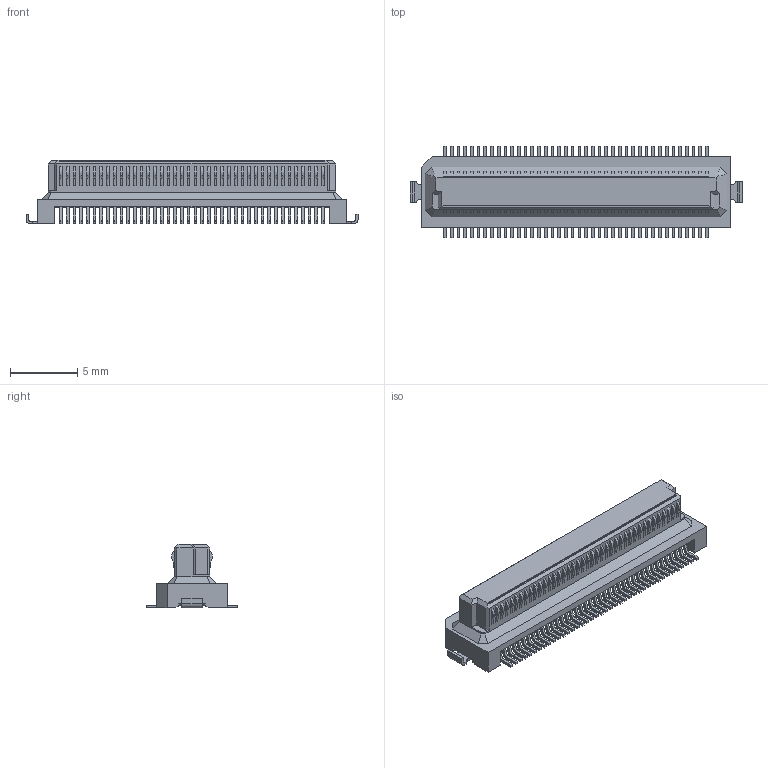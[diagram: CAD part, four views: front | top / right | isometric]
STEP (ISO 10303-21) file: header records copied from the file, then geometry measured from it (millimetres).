
FILE_DESCRIPTION(('Creo Elements/Direct Modeling STEP Export'),'2;1');
FILE_NAME('P39559_DY10-080S-2.stp','2022-02-24T19:20:22',(''),(''),'Creo Elements/Direct Modeling STEP processor for AP214 (Solid Model)','Creo Elements/Direct Modeling 20.4A 18-Oct-2021 (C) Parametric Technology GmbH','');
FILE_SCHEMA(('AUTOMOTIVE_DESIGN { 1 0 10303 214 1 1 1 1 }'));
Length unit declared in the file: millimetre
Products named in the file (2): P39559_DY10-080S-2
Assembly tree (1 placements, depth 2):
  P39559_DY10-080S-2
    P39559_DY10-080S-2
Bounding box: 24.7 x 6.8 x 4.73 mm (x, y, z)
Volume: 259.7 mm3; surface area: 614.7 mm2
Topology: 1 solids, 1 shells, 1244 faces, 3211 edges, 2130 vertices
Faces by surface type: plane 992, cylinder 252
Entity records: 37546 total; most frequent: CARTESIAN_POINT 6582, ORIENTED_EDGE 6422, DIRECTION 6200, EDGE_CURVE 3211, VECTOR 2704, LINE 2704, VERTEX_POINT 2130, AXIS2_PLACEMENT_3D 1748
